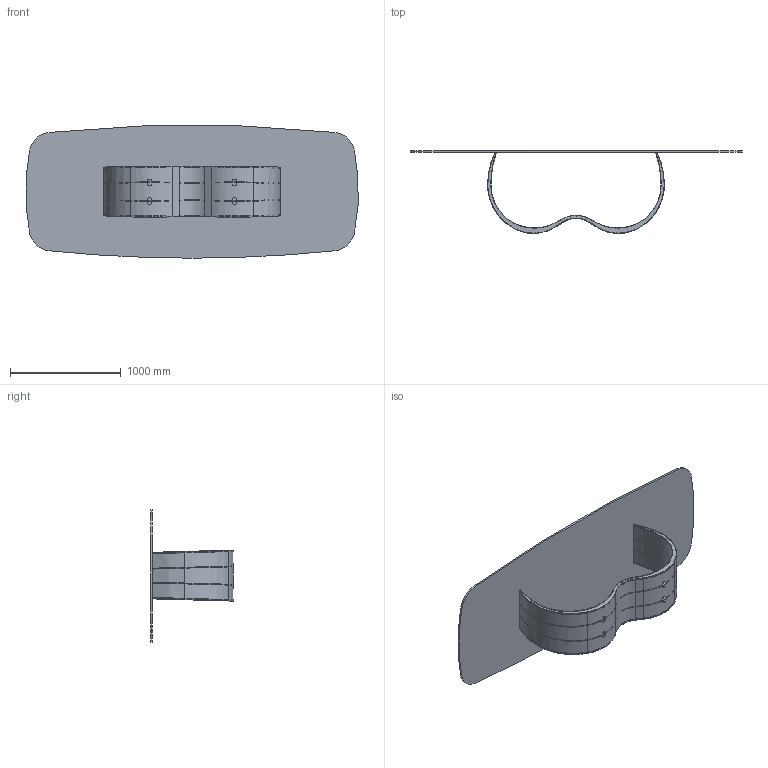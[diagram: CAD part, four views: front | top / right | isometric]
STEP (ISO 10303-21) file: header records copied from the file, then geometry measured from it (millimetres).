
FILE_DESCRIPTION (( 'STEP AP203' ), '1' );
FILE_NAME ('AI44G_Alisei_300x120_Glass Shaped.STEP', '2024-07-31T12:53:39', ( '' ), ( '' ), 'SwSTEP 2.0', 'SolidWorks 2022', '' );
FILE_SCHEMA (( 'CONFIG_CONTROL_DESIGN' ));
Length unit declared in the file: millimetre
Products named in the file (13): SpecchiaturaSpecchiaturaBASE METALLO CURVATO_MEZZA COSTOLA INTERNA; ALI000001_02-00-LAMIERA CALANDRATA INTERNA; ALI000001_05-00-APPOGGIO PIANO; ALI000001_04-00-MEZZA COSTOLA; ALI000001_01-00-LAMIERA CALANDRATA ESTERNA; GOMMINO PVC; AI44G_Alisei_300x120_Glass Shaped; ALI000001-00-ALISEI BASE METALLO L300 GREZZO; ALI000001_03-00-MEZZA COSTOLA INTERNA; SpecchiaturaBASE METALLO CURVATO_MEZZA COSTOLA INTERNA; C4XCRXX-00-Piani Sagomati in Cristallo_3000 x 1200; SpecchiaturaBASE METALLO CURVATO_MEZZA COSTOLA; SpecchiaturaSpecchiaturaBASE METALLO CURVATO_MEZZA COSTOLA
Assembly tree (18 placements, depth 3):
  AI44G_Alisei_300x120_Glass Shaped
    ALI000001-00-ALISEI BASE METALLO L300 GREZZO
      ALI000001_01-00-LAMIERA CALANDRATA ESTERNA
      ALI000001_04-00-MEZZA COSTOLA
      SpecchiaturaBASE METALLO CURVATO_MEZZA COSTOLA  x2
      SpecchiaturaSpecchiaturaBASE METALLO CURVATO_MEZZA COSTOLA
      ALI000001_02-00-LAMIERA CALANDRATA INTERNA
      ALI000001_05-00-APPOGGIO PIANO  x2
      ALI000001_03-00-MEZZA COSTOLA INTERNA
      SpecchiaturaBASE METALLO CURVATO_MEZZA COSTOLA INTERNA  x2
      SpecchiaturaSpecchiaturaBASE METALLO CURVATO_MEZZA COSTOLA INTERNA
    GOMMINO PVC  x4
    C4XCRXX-00-Piani Sagomati in Cristallo_3000 x 1200
Bounding box: 2991.72 x 746 x 1192.61 mm (x, y, z)
Volume: 57819207.6 mm3; surface area: 12508918 mm2
Topology: 17 solids, 17 shells, 880 faces, 2478 edges, 1632 vertices
Faces by surface type: bspline 397, plane 336, cylinder 131, torus 16
Entity records: 32806 total; most frequent: CARTESIAN_POINT 15734, ORIENTED_EDGE 4210, EDGE_CURVE 2105, DIRECTION 2059, VERTEX_POINT 1391, VECTOR 1043, LINE 1043, EDGE_LOOP 830
